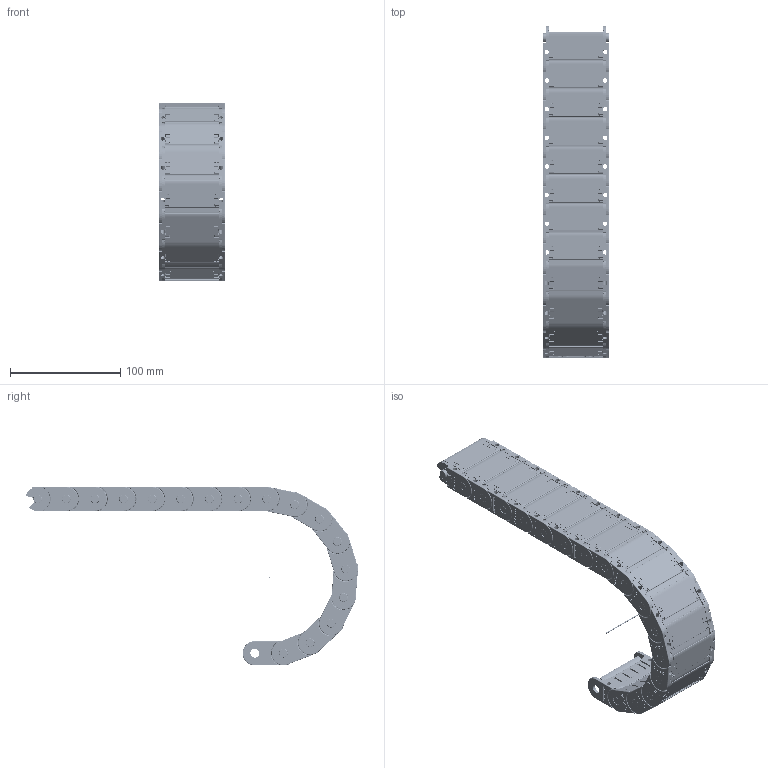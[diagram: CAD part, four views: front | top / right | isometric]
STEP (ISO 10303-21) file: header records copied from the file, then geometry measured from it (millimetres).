
FILE_DESCRIPTION((''),'2;1');
FILE_NAME('E:\Uebbing\PARAMETERKETTEN\KOLIBRI\Kol_22_060_5\KOLIBRI 22_060_5_R70.stp','2021-07-01T14:32:55',('Nutzer'),(''),'Autodesk Inventor 10','Autodesk Inventor 10','');
FILE_SCHEMA(('AUTOMOTIVE_DESIGN { 1 0 10303 214 1 1 1 1 }'));
Length unit declared in the file: millimetre
Products named in the file (5): KOLIBRI 22_060_5_50 ANr 1259; Kol_22_060_5; Kol_22_060_5_Klappdeckel; Kol_22_060_5_Lasche; Achse
Assembly tree (20 placements, depth 3):
  KOLIBRI 22_060_5_50 ANr 1259
    Kol_22_060_5  x17
      Kol_22_060_5_Klappdeckel
      Kol_22_060_5_Lasche
    Achse
Bounding box: 60 x 301.27 x 162.36 mm (x, y, z)
Volume: 168642.2 mm3; surface area: 208394.7 mm2
Topology: 69 solids, 69 shells, 11835 faces, 32049 edges, 20981 vertices
Faces by surface type: bspline 5610, plane 4065, cylinder 2024, torus 68, cone 34, sphere 34
Full cylindrical faces by diameter (mm): 0.804 x17, 1 x1, 1.412 x17, 1.8 x34, 2 x34, 4 x85, 5 x17, 8 x34
Entity records: 23886 total; most frequent: CARTESIAN_POINT 7010, ORIENTED_EDGE 3678, DIRECTION 3057, EDGE_CURVE 1839, VECTOR 1319, LINE 1319, VERTEX_POINT 1224, AXIS2_PLACEMENT_3D 869
